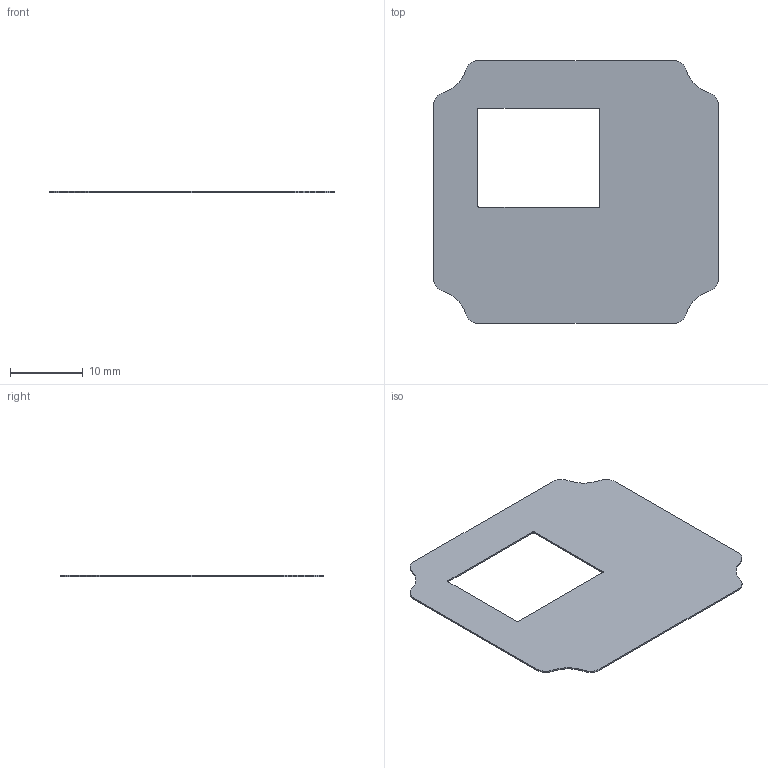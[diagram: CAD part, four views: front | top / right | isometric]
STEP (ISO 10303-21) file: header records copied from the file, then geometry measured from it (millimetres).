
FILE_DESCRIPTION(/* description */ ('VariCAD 2008 1.04 AP-203'),/* implementation_level */ '2;1');
FILE_NAME(/* name */ '0353-17-01',/* time_stamp */ '2008-06-01T23:49:24-06:00',/* author */ (''),/* organization */ (''),/* preprocessor_version */ 'ST-DEVELOPER v10',/* originating_system */ 'VariCAD 2008 1.04; kernel version (20071230)',/* authorisation */ '');
FILE_SCHEMA (('CONFIG_CONTROL_DESIGN'));
Length unit declared in the file: millimetre
Products named in the file (1): Part
Bounding box: 39 x 36 x 0.2 mm (x, y, z)
Volume: 221.6 mm3; surface area: 2255.3 mm2
Topology: 1 solids, 1 shells, 26 faces, 72 edges, 48 vertices
Faces by surface type: cylinder 16, plane 10
Entity records: 898 total; most frequent: DIRECTION 160, CARTESIAN_POINT 148, ORIENTED_EDGE 144, EDGE_CURVE 72, AXIS2_PLACEMENT_3D 60, VERTEX_POINT 48, LINE 40, VECTOR 40
